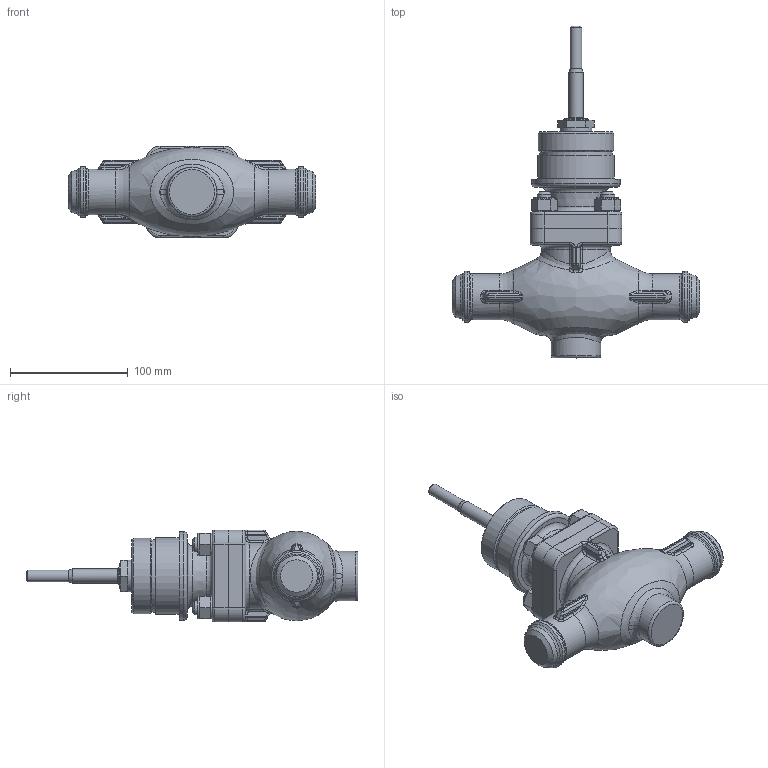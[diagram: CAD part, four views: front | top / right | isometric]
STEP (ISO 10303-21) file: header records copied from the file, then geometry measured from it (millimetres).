
FILE_DESCRIPTION(/* description */ (''),/* implementation_level */ '2;1');
FILE_NAME(/* name */ 'CV3xx_NPS_1_privarovaci.stp',/* time_stamp */ '2014-01-07T07:30:51+01:00',/* author */ (''),/* organization */ ('LDM'),/* preprocessor_version */ 'ST-DEVELOPER v11',/* originating_system */ 'SIEMENS PLM Software NX 7.0',/* authorisation */ '');
FILE_SCHEMA (('CONFIG_CONTROL_DESIGN'));
Length unit declared in the file: millimetre
Products named in the file (1): adamED63yt13
Bounding box: 210 x 282 x 78 mm (x, y, z)
Volume: 952523.1 mm3; surface area: 89042.5 mm2
Topology: 1 solids, 5 shells, 460 faces, 1038 edges, 593 vertices
Faces by surface type: cylinder 130, plane 109, bspline 84, cone 82, torus 31, sphere 24
Full cylindrical faces by diameter (mm): 10 x1, 12 x13, 14 x1, 18 x1, 19 x8, 21 x1, 27 x1, 39 x2, 42 x1, 43 x2, 58 x1, 61.6 x1, 64 x1, 65 x1, 75 x1
Entity records: 14266 total; most frequent: CARTESIAN_POINT 5148, ORIENTED_EDGE 1826, DIRECTION 1812, EDGE_CURVE 913, AXIS2_PLACEMENT_3D 789, EDGE_LOOP 570, VERTEX_POINT 557, ADVANCED_FACE 460
